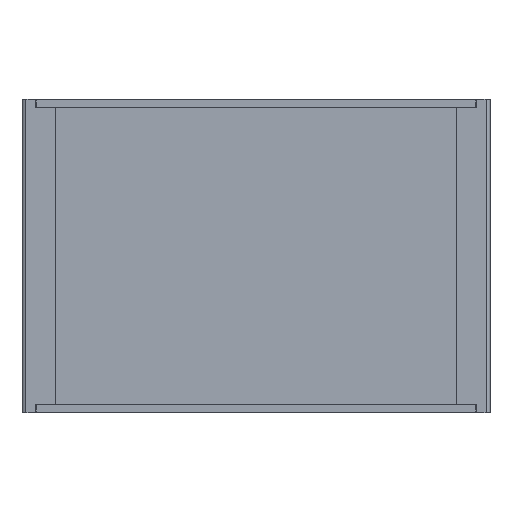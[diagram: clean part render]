
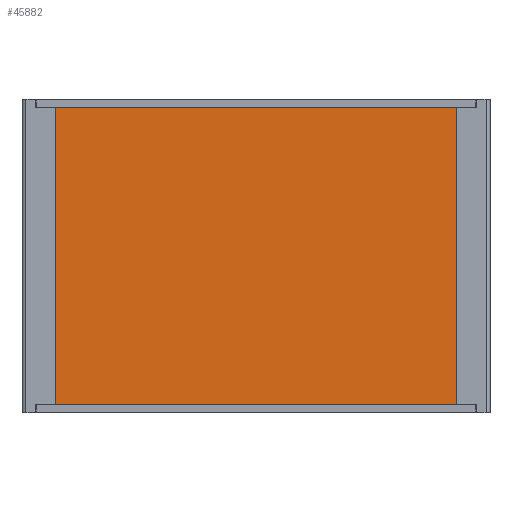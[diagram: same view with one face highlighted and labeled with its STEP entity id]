
A CAD part, front view. The second image highlights one B-rep face of the part: STEP entity #45882.
In plain terms, the highlighted planar face has unit normal (0, -1, 0).
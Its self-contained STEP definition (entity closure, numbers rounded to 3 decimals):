
#45515=DIRECTION('',(0.,0.,-1.));
#45516=VECTOR('',#45515,76.8);
#45517=CARTESIAN_POINT('',(-55.4,0.,38.4));
#45518=LINE('',#45517,#45516);
#45523=DIRECTION('',(1.,0.,0.));
#45524=VECTOR('',#45523,110.8);
#45525=CARTESIAN_POINT('',(-55.4,0.,-38.4));
#45526=LINE('',#45525,#45524);
#45531=DIRECTION('',(0.,0.,1.));
#45532=VECTOR('',#45531,76.8);
#45533=CARTESIAN_POINT('',(55.4,0.,-38.4));
#45534=LINE('',#45533,#45532);
#45539=DIRECTION('',(-1.,0.,0.));
#45540=VECTOR('',#45539,110.8);
#45541=CARTESIAN_POINT('',(55.4,0.,38.4));
#45542=LINE('',#45541,#45540);
#45787=CARTESIAN_POINT('',(-55.4,0.,38.4));
#45788=CARTESIAN_POINT('',(-55.4,0.,-38.4));
#45789=VERTEX_POINT('',#45787);
#45790=VERTEX_POINT('',#45788);
#45791=CARTESIAN_POINT('',(55.4,0.,38.4));
#45792=VERTEX_POINT('',#45791);
#45793=CARTESIAN_POINT('',(55.4,0.,-38.4));
#45794=VERTEX_POINT('',#45793);
#45867=CARTESIAN_POINT('',(0.,0.,0.));
#45868=DIRECTION('',(0.,1.,0.));
#45869=DIRECTION('',(1.,0.,0.));
#45870=AXIS2_PLACEMENT_3D('',#45867,#45868,#45869);
#45871=PLANE('',#45870);
#45873=ORIENTED_EDGE('',*,*,#45872,.F.);
#45875=ORIENTED_EDGE('',*,*,#45874,.F.);
#45877=ORIENTED_EDGE('',*,*,#45876,.F.);
#45879=ORIENTED_EDGE('',*,*,#45878,.F.);
#45880=EDGE_LOOP('',(#45873,#45875,#45877,#45879));
#45881=FACE_OUTER_BOUND('',#45880,.F.);
#45882=ADVANCED_FACE('',(#45881),#45871,.F.);
#45872=EDGE_CURVE('',#45789,#45790,#45518,.T.);
#45874=EDGE_CURVE('',#45792,#45789,#45542,.T.);
#45876=EDGE_CURVE('',#45794,#45792,#45534,.T.);
#45878=EDGE_CURVE('',#45790,#45794,#45526,.T.);
